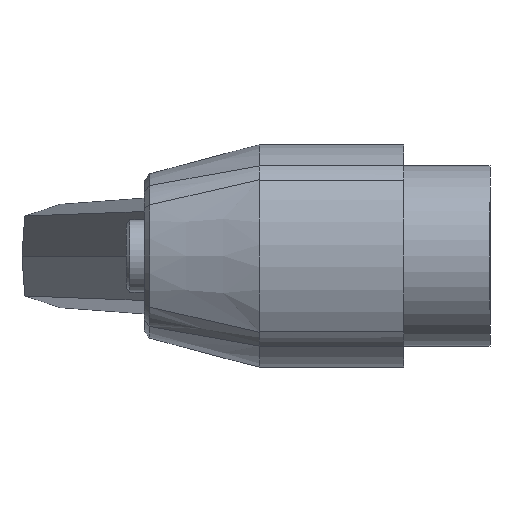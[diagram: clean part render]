
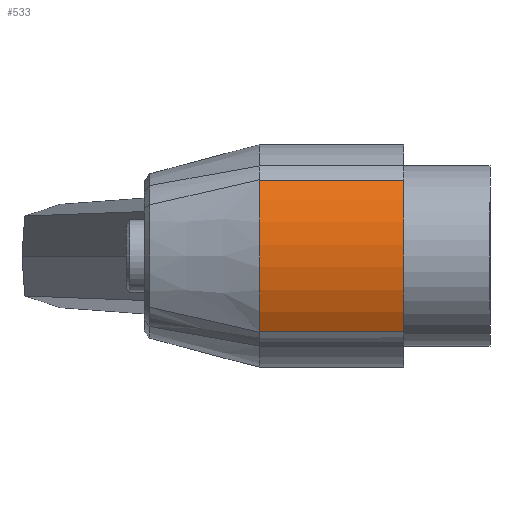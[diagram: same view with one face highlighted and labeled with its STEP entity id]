
A CAD part, left-side view. The second image highlights one B-rep face of the part: STEP entity #533.
In plain terms, the highlighted cylindrical face has radius 20.318 mm (diameter 40.637 mm), a partial arc.
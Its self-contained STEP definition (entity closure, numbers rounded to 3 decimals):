
#38 = ORIENTED_EDGE ( 'NONE', *, *, #475, .T. ) ;
#96 = DIRECTION ( 'NONE',  ( 0., 1., 0. ) ) ;
#112 = CIRCLE ( 'NONE', #1250, 20.318 ) ;
#164 = VERTEX_POINT ( 'NONE', #1648 ) ;
#227 = DIRECTION ( 'NONE',  ( 0., -1., 0. ) ) ;
#239 = CARTESIAN_POINT ( 'NONE',  ( 4.818, 20., 0. ) ) ;
#255 = VERTEX_POINT ( 'NONE', #675 ) ;
#258 = CARTESIAN_POINT ( 'NONE',  ( -12.555, 20., 10.536 ) ) ;
#265 = EDGE_CURVE ( 'NONE', #255, #1330, #1451, .T. ) ;
#282 = ORIENTED_EDGE ( 'NONE', *, *, #1373, .T. ) ;
#289 = CARTESIAN_POINT ( 'NONE',  ( 4.818, 0., 0. ) ) ;
#294 = CARTESIAN_POINT ( 'NONE',  ( -12.555, 20., 10.536 ) ) ;
#322 = EDGE_LOOP ( 'NONE', ( #1672, #38, #282, #1175 ) ) ;
#407 = DIRECTION ( 'NONE',  ( 0., 1., 0. ) ) ;
#431 = CARTESIAN_POINT ( 'NONE',  ( -12.555, 20., -10.536 ) ) ;
#452 = CYLINDRICAL_SURFACE ( 'NONE', #900, 20.318 ) ;
#475 = EDGE_CURVE ( 'NONE', #164, #1298, #1455, .T. ) ;
#533 = ADVANCED_FACE ( 'NONE', ( #1256 ), #452, .T. ) ;
#581 = DIRECTION ( 'NONE',  ( 0., -1., 0. ) ) ;
#647 = DIRECTION ( 'NONE',  ( 0., 1., 0. ) ) ;
#675 = CARTESIAN_POINT ( 'NONE',  ( -12.555, 0., 10.536 ) ) ;
#786 = CIRCLE ( 'NONE', #1555, 20.318 ) ;
#871 = DIRECTION ( 'NONE',  ( 0., 0., -1. ) ) ;
#900 = AXIS2_PLACEMENT_3D ( 'NONE', #1010, #227, #871 ) ;
#1010 = CARTESIAN_POINT ( 'NONE',  ( 4.818, 20., 0. ) ) ;
#1051 = CARTESIAN_POINT ( 'NONE',  ( -12.555, 0., -10.536 ) ) ;
#1170 = VECTOR ( 'NONE', #407, 1000. ) ;
#1175 = ORIENTED_EDGE ( 'NONE', *, *, #265, .T. ) ;
#1250 = AXIS2_PLACEMENT_3D ( 'NONE', #239, #96, #1288 ) ;
#1254 = EDGE_CURVE ( 'NONE', #164, #1330, #112, .T. ) ;
#1256 = FACE_OUTER_BOUND ( 'NONE', #322, .T. ) ;
#1288 = DIRECTION ( 'NONE',  ( 0., 0., -1. ) ) ;
#1298 = VERTEX_POINT ( 'NONE', #1051 ) ;
#1330 = VERTEX_POINT ( 'NONE', #258 ) ;
#1373 = EDGE_CURVE ( 'NONE', #1298, #255, #786, .T. ) ;
#1451 = LINE ( 'NONE', #294, #1170 ) ;
#1455 = LINE ( 'NONE', #431, #1612 ) ;
#1523 = DIRECTION ( 'NONE',  ( 0., 0., 1. ) ) ;
#1555 = AXIS2_PLACEMENT_3D ( 'NONE', #289, #647, #1523 ) ;
#1612 = VECTOR ( 'NONE', #581, 1000. ) ;
#1648 = CARTESIAN_POINT ( 'NONE',  ( -12.555, 20., -10.536 ) ) ;
#1672 = ORIENTED_EDGE ( 'NONE', *, *, #1254, .F. ) ;
